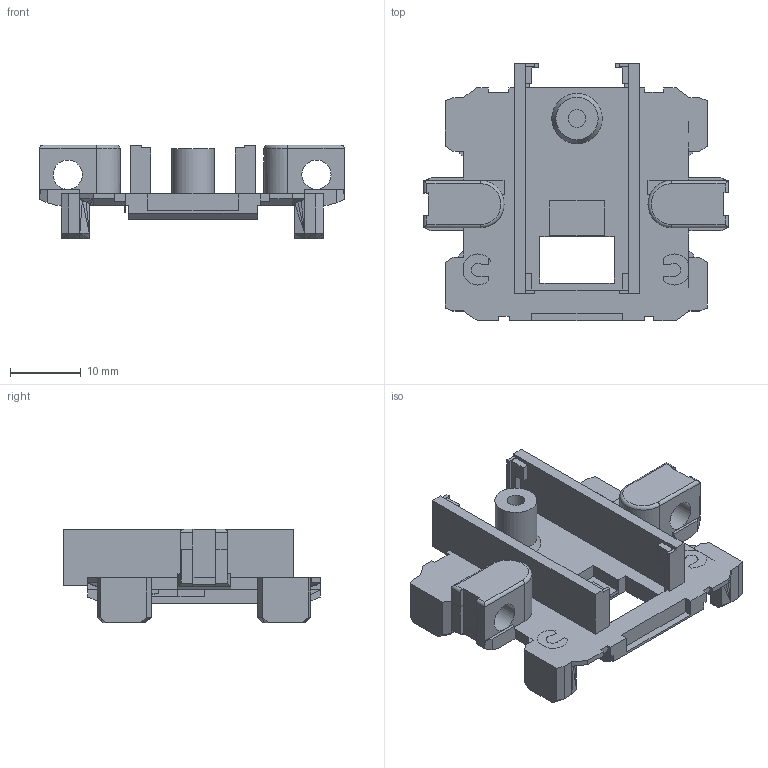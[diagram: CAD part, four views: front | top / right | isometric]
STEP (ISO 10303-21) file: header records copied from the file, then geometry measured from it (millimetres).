
FILE_DESCRIPTION(('Open CASCADE Model'),'2;1');
FILE_NAME('Open CASCADE Shape Model','2026-10-09T16:45:39',('Author'),( 'Open CASCADE'),'Open CASCADE STEP processor 7.9','Open CASCADE 7.9' ,'Unknown');
FILE_SCHEMA(('AUTOMOTIVE_DESIGN { 1 0 10303 214 1 1 1 1 }'));
Length unit declared in the file: millimetre
Products named in the file (1): Open CASCADE STEP translator 7.9 2
Bounding box: 43.15 x 36.41 x 13.3 mm (x, y, z)
Volume: 4556 mm3; surface area: 5201.1 mm2
Topology: 1 solids, 1 shells, 679 faces, 1863 edges, 1188 vertices
Faces by surface type: plane 642, cylinder 34, torus 2, cone 1
Full cylindrical faces by diameter (mm): 2.5 x1, 4.145 x1, 6 x1
Entity records: 45344 total; most frequent: CARTESIAN_POINT 7836, DIRECTION 6925, LINE 5377, VECTOR 5377, ORIENTED_EDGE 3726, PCURVE 3726, DEFINITIONAL_REPRESENTATION 3726, EDGE_CURVE 1863
